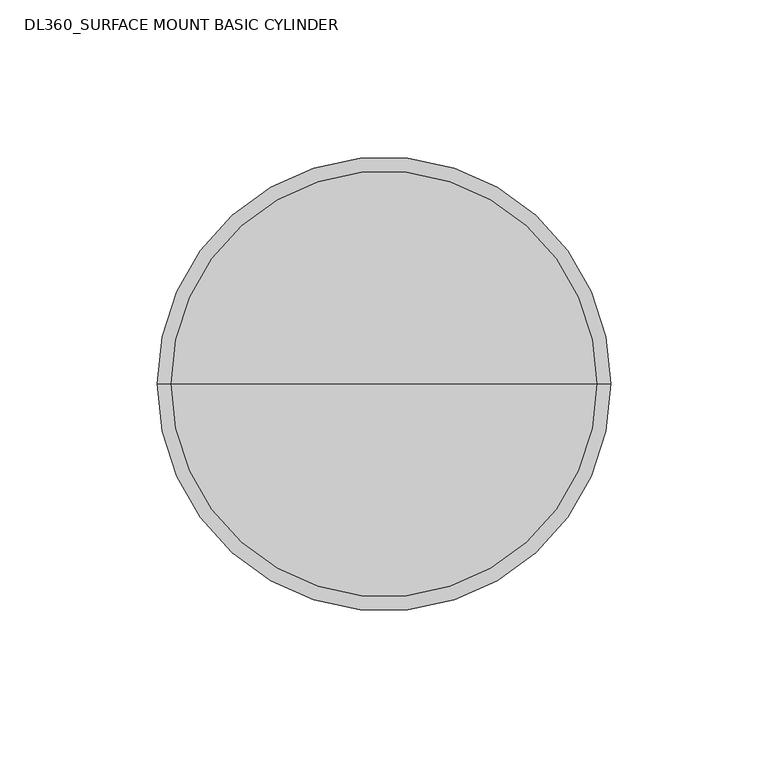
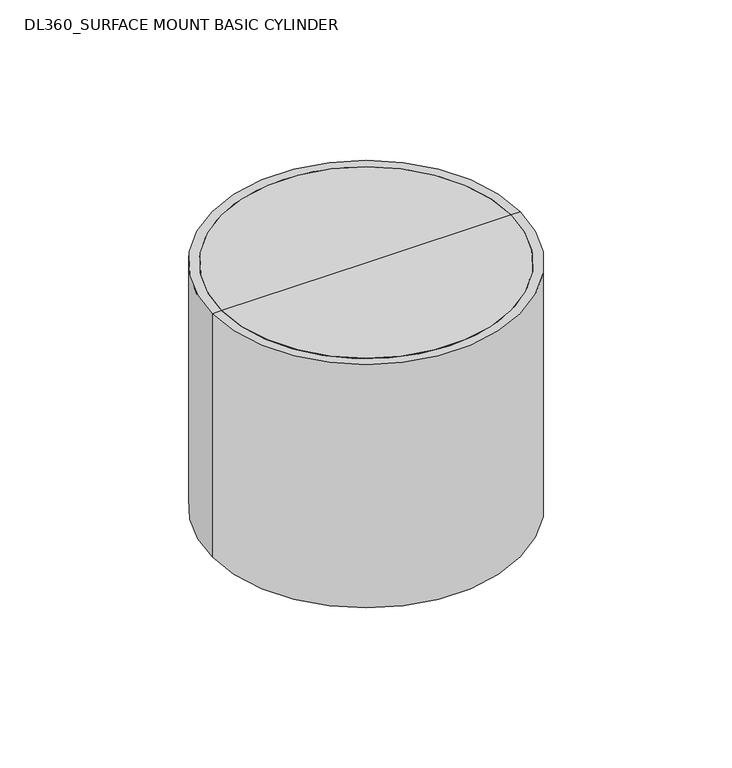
"""IFC4 building model written with IfcOpenShell, lengths in millimetres: light fixture geometry, DL360_SURFACE MOUNT BASIC CYLINDER : DL360WUE-DUN (IP65)."""

import ifcopenshell
import ifcopenshell.guid

model = None  # the IFC model being written
_history = None  # IfcOwnerHistory: only IFC2X3 demands one
_inside = {}  # id of a spatial element -> (the spatial element, [elements in it])
_under = {}  # id of a project, library or spatial element -> (it, [spatial elements below it])
_declared = {}  # id of a project -> (the project, [libraries it declares])
_typed = {}  # id of a type object -> (the type object, [elements of that type])
_made_of = {}  # id of a material, layer set ... -> (it, [elements and type objects made of it])


def new_model(schema):
    """Start an empty IFC model of exactly this schema.

    Asked for "IFC4X3", IfcOpenShell would pick the latest addendum, in which some entities
    have other attributes; the version numbers below select the first issue.
    IFC2X3 requires an IfcOwnerHistory on every rooted entity: one is made here for all.
    """
    global model, _history
    if schema == "IFC4X3":
        model = ifcopenshell.file(schema_version=(4, 3, 0, 0))
    else:
        model = ifcopenshell.file(schema=schema)
    _inside.clear()
    _under.clear()
    _declared.clear()
    _typed.clear()
    _made_of.clear()
    _history = None
    if model.schema == "IFC2X3":
        org = make("IfcOrganization", Name="unknown")
        user = make(
            "IfcPersonAndOrganization",
            ThePerson=make("IfcPerson", FamilyName="unknown"),
            TheOrganization=org,
        )
        app = make(
            "IfcApplication",
            ApplicationDeveloper=org,
            Version="unknown",
            ApplicationFullName="unknown",
            ApplicationIdentifier="unknown",
        )
        _history = make(
            "IfcOwnerHistory",
            OwningUser=user,
            OwningApplication=app,
            ChangeAction="ADDED",
            CreationDate=0,
        )
    return model


def make(cls, **values):
    """One entity of the class cls with the attributes given. An attribute that is None is left unset."""
    return model.create_entity(
        cls, **{name: value for name, value in values.items() if value is not None}
    )


def rooted(cls, **values):
    """An entity with a GlobalId (a new one), such as an element, a storey or a relation."""
    return make(cls, GlobalId=ifcopenshell.guid.new(), OwnerHistory=_history, **values)


def si_unit(unit_type, name, prefix=None):
    """IfcSIUnit, for example si_unit("LENGTHUNIT", "METRE", prefix="MILLI")."""
    return make("IfcSIUnit", UnitType=unit_type, Prefix=prefix, Name=name)


def assignment(units):
    """IfcUnitAssignment: the units of a project."""
    return None if units is None else make("IfcUnitAssignment", Units=units)


def point(xyz):
    """IfcCartesianPoint."""
    return None if xyz is None else make("IfcCartesianPoint", Coordinates=xyz)


def direction(xyz):
    """IfcDirection."""
    return None if xyz is None else make("IfcDirection", DirectionRatios=xyz)


def frame(location, z_axis=None, x_axis=None):
    """IfcAxis2Placement3D, a coordinate frame: its origin and axes. An axis left out is left unset."""
    return make(
        "IfcAxis2Placement3D",
        Location=point(location),
        Axis=direction(z_axis),
        RefDirection=direction(x_axis),
    )


def origin():
    """The frame at (0, 0, 0) with its axes left unset."""
    return frame((0.0, 0.0, 0.0))


def place(relative_to, where):
    """IfcLocalPlacement: puts the frame where relative to a parent placement (None: the world)."""
    return make(
        "IfcLocalPlacement", PlacementRelTo=relative_to, RelativePlacement=where
    )


def context(
    kind, dimensions, precision=None, world=None, true_north=None, identifier=None
):
    """IfcGeometricRepresentationContext, for example the 3D "Model" context."""
    return make(
        "IfcGeometricRepresentationContext",
        ContextIdentifier=identifier,
        ContextType=kind,
        CoordinateSpaceDimension=dimensions,
        Precision=precision,
        WorldCoordinateSystem=world,
        TrueNorth=true_north,
    )


def project(units=None, contexts=None):
    """IfcProject with its units and contexts."""
    return rooted(
        "IfcProject",
        Name="project",
        RepresentationContexts=contexts,
        UnitsInContext=assignment(units),
    )


def spatial(cls, under=None, at=None, **own):
    """A site, building, storey or space (cls), placed at a placement, below another one or the project."""
    s = rooted(cls, ObjectPlacement=at, **own)
    if under is not None:
        _under.setdefault(under.id(), (under, []))[1].append(s)
    return s


def polyline(points):
    """IfcPolyline through the points."""
    return make("IfcPolyline", Points=[point(p) for p in points])


def circle_curve(where, radius):
    """IfcCircle in the frame where."""
    return make("IfcCircle", Position=where, Radius=radius)


def shape(context_of_items, identifier, shape_type, items):
    """IfcShapeRepresentation: the items that make up one representation, for example the "Body"."""
    return make(
        "IfcShapeRepresentation",
        ContextOfItems=context_of_items,
        RepresentationIdentifier=identifier,
        RepresentationType=shape_type,
        Items=items,
    )


def source(mapping_origin, context_of_items, identifier, shape_type, items):
    """IfcRepresentationMap: a shape defined once, which mapped items show again and again."""
    return make(
        "IfcRepresentationMap",
        MappingOrigin=mapping_origin,
        MappedRepresentation=shape(context_of_items, identifier, shape_type, items),
    )


def transform(
    local_origin,
    x_axis=None,
    y_axis=None,
    z_axis=None,
    scale=None,
    scale2=None,
    scale3=None,
    uniform=True,
):
    """IfcCartesianTransformationOperator3D, or its non-uniform kind. x_axis, y_axis, z_axis: its Axis1, 2, 3."""
    if uniform:
        return make(
            "IfcCartesianTransformationOperator3D",
            Axis1=direction(x_axis),
            Axis2=direction(y_axis),
            LocalOrigin=point(local_origin),
            Scale=scale,
            Axis3=direction(z_axis),
        )
    return make(
        "IfcCartesianTransformationOperator3DnonUniform",
        Axis1=direction(x_axis),
        Axis2=direction(y_axis),
        LocalOrigin=point(local_origin),
        Scale=scale,
        Axis3=direction(z_axis),
        Scale2=scale2,
        Scale3=scale3,
    )


def mapped(mapping_source, mapping_target):
    """IfcMappedItem: shows the shape of a source again, moved by a transform."""
    return make(
        "IfcMappedItem", MappingSource=mapping_source, MappingTarget=mapping_target
    )


def made_of(thing, what):
    """Note that an element or type object is made of a material, layer set ...; save() writes the relation."""
    if what is not None:
        _made_of.setdefault(what.id(), (what, []))[1].append(thing)
    return thing


def element(
    cls,
    number,
    at=None,
    inside=None,
    cuts=None,
    type_object=None,
    material=None,
    context=None,
    identifier="Body",
    shape_type=None,
    held_by="IfcProductDefinitionShape",
    body=None,
    shapes=None,
    **own,
):
    """One element of the class cls, such as IfcWall. Its Tag is "e" and its number.

    at: its placement. inside: the storey or other place that contains it. cuts: it is an
    opening in that element (IfcRelVoidsElement). A single representation is given by context,
    identifier, shape_type and body (its items); several are given by shapes. held_by: the class
    of the entity that holds the representations. save() writes the other relations.
    """
    e = rooted(cls, Tag="e%d" % number, ObjectPlacement=at, **own)
    if body is not None:
        shapes = [shape(context, identifier, shape_type, body)]
    if shapes is not None:
        e.Representation = make(held_by, Representations=shapes)
    if inside is not None:
        _inside.setdefault(inside.id(), (inside, []))[1].append(e)
    if cuts is not None:
        rooted(
            "IfcRelVoidsElement", RelatingBuildingElement=cuts, RelatedOpeningElement=e
        )
    if type_object is not None:
        _typed.setdefault(type_object.id(), (type_object, []))[1].append(e)
    return made_of(e, material)


def aggregate(whole, parts):
    """IfcRelAggregates: a whole, such as a stair, and the parts it consists of."""
    return rooted("IfcRelAggregates", RelatingObject=whole, RelatedObjects=parts)


def save(model, path):
    """Write the relations noted so far, then the file.

    IfcRelAggregates (storeys below a building ...), IfcRelContainedInSpatialStructure (elements
    in a storey), IfcRelDefinesByType, IfcRelAssociatesMaterial and IfcRelDeclares: one each for
    every whole, place, type object, material and project.
    """
    for whole, parts in _under.values():
        aggregate(whole, parts)
    for where, things in _inside.values():
        rooted(
            "IfcRelContainedInSpatialStructure",
            RelatedElements=things,
            RelatingStructure=where,
        )
    for kind, things in _typed.values():
        rooted("IfcRelDefinesByType", RelatedObjects=things, RelatingType=kind)
    for what, things in _made_of.values():
        rooted("IfcRelAssociatesMaterial", RelatedObjects=things, RelatingMaterial=what)
    for by, libraries in _declared.values():
        rooted("IfcRelDeclares", RelatingContext=by, RelatedDefinitions=libraries)
    model.write(path)


def plane_surface(at):
    """IfcPlane: the flat surface through the origin of the frame at, square to its z axis."""
    return make("IfcPlane", Position=at)


def cylinder_surface(at, radius):
    """IfcCylindricalSurface: all points at the distance radius from the z axis of the frame at."""
    return make("IfcCylindricalSurface", Position=at, Radius=radius)


def revolved_surface(curve, axis_point, axis_direction):
    """IfcSurfaceOfRevolution: the curve turned about the line through axis_point along axis_direction."""
    return make(
        "IfcSurfaceOfRevolution",
        SweptCurve=make("IfcArbitraryOpenProfileDef", ProfileType="CURVE", Curve=curve),
        AxisPosition=make("IfcAxis1Placement", Location=point(axis_point), Axis=direction(axis_direction)),
    )


def advanced_brep(points, edges, surfaces, faces):
    """IfcAdvancedBrep: a solid bounded by faces that lie on surfaces and meet in shared edges.

    An edge is (start, end): straight between two places in points (the first is 0);
    or (start, end, curve); or (start, end, curve, False) where it runs against its curve.
    A face is (place in surfaces, loops), or (place, loops, False) where it looks against
    its surface's normal. A loop lists edges by number (the first is 1), with a minus sign
    where the edge is run from its end to its start. The first loop is the outer one.
    """
    corners = [point(p) for p in points]
    vertices = [make("IfcVertexPoint", VertexGeometry=c) for c in corners]
    made = []
    for start, end, *more in edges:
        made.append(
            make(
                "IfcEdgeCurve",
                EdgeStart=vertices[start],
                EdgeEnd=vertices[end],
                EdgeGeometry=more[0] if more else make("IfcPolyline", Points=[corners[start], corners[end]]),
                SameSense=more[1] if len(more) > 1 else True,
            )
        )
    hull = []
    for where, loops, *sense in faces:
        bounds = []
        for j, loop in enumerate(loops):
            ring = [make("IfcOrientedEdge", EdgeElement=made[abs(k) - 1], Orientation=k > 0) for k in loop]
            bounds.append(
                make(
                    "IfcFaceOuterBound" if j == 0 else "IfcFaceBound",
                    Bound=make("IfcEdgeLoop", EdgeList=ring),
                    Orientation=True,
                )
            )
        hull.append(make("IfcAdvancedFace", Bounds=bounds, FaceSurface=surfaces[where], SameSense=sense[0] if sense else True))
    return make("IfcAdvancedBrep", Outer=make("IfcClosedShell", CfsFaces=hull))


def dl360_surface_mount_basic_cylinder_dcbcaecf(model_context):
    return source(origin(), model_context, "Body", "AdvancedBrep", [
        advanced_brep(
        [(0.0, -33.7992882, -74.1687017), (-14.1209304, -33.7992882, -74.1687017), (14.1209304, -33.7992882, -74.1687017), (14.2824206, -33.7992882, -73.3749517), (-14.2824206, -33.7992882, -73.3749517), (0.0, -33.7992882, -73.3749517), (22.0439404, -33.7992882, -76.6695213), (-22.0439404, -33.7992882, -76.6695213), (30.7276006, -33.7992882, -81.2867054), (-30.7276006, -33.7992882, -81.2867054), (41.016168, -33.7992882, -87.7157158), (-41.016168, -33.7992882, -87.7157158), (49.629238, -33.7992882, -94.4449836), (-49.629238, -33.7992882, -94.4449836), (56.3797016, -33.7992882, -101.1954472), (-56.3797016, -33.7992882, -101.1954472), (60.1702288, -33.7992882, -108.9671796), (-60.1702288, -33.7992882, -108.9671796), (60.6291676, -33.7992882, -114.5900686), (-60.6291676, -33.7992882, -114.5900686), (59.8327781, -33.7992882, -114.5900686), (-59.8327781, -33.7992882, -114.5900686), (59.3912718, -33.7992882, -109.1807614), (-59.3912718, -33.7992882, -109.1807614), (55.7245119, -33.7992882, -101.6627895), (-55.7245119, -33.7992882, -101.6627895), (49.1023005, -33.7992882, -95.0405781), (-49.1023005, -33.7992882, -95.0405781), (40.5602669, -33.7992882, -88.36681), (-40.5602669, -33.7992882, -88.36681), (30.3304837, -33.7992882, -81.974532), (-30.3304837, -33.7992882, -81.974532), (21.7018967, -33.7992882, -77.3866309), (-21.7018967, -33.7992882, -77.3866309)],
        [
            (0, 1),
            (1, 2, circle_curve(frame((0.0, -33.7992882, -74.1687017), z_axis=(0.0, 0.0, -1.0), x_axis=(-1.0, 0.0, 0.0)), 14.1209304)),
            (2, 0),
            (2, 1, circle_curve(frame((0.0, -33.7992882, -74.1687017), z_axis=(0.0, 0.0, -1.0), x_axis=(-1.0, 0.0, 0.0)), 14.1209304)),
            (3, 4, circle_curve(frame((0.0, -33.7992882, -73.3749517), z_axis=(0.0, 0.0, 1.0), x_axis=(-1.0, 0.0, 0.0)), 14.2824206)),
            (4, 5),
            (5, 3),
            (4, 3, circle_curve(frame((0.0, -33.7992882, -73.3749517), z_axis=(0.0, 0.0, 1.0), x_axis=(-1.0, 0.0, 0.0)), 14.2824206)),
            (6, 7, circle_curve(frame((0.0, -33.7992882, -76.6695213), z_axis=(0.0, 0.0, 1.0), x_axis=(-1.0, 0.0, 0.0)), 22.0439404)),
            (7, 4),
            (3, 6),
            (7, 6, circle_curve(frame((0.0, -33.7992882, -76.6695213), z_axis=(0.0, 0.0, 1.0), x_axis=(-1.0, 0.0, 0.0)), 22.0439404)),
            (8, 9, circle_curve(frame((0.0, -33.7992882, -81.2867054), z_axis=(0.0, 0.0, 1.0), x_axis=(-1.0, 0.0, 0.0)), 30.7276006)),
            (9, 7),
            (6, 8),
            (9, 8, circle_curve(frame((0.0, -33.7992882, -81.2867054), z_axis=(0.0, 0.0, 1.0), x_axis=(-1.0, 0.0, 0.0)), 30.7276006)),
            (10, 11, circle_curve(frame((0.0, -33.7992882, -87.7157158), z_axis=(0.0, 0.0, 1.0), x_axis=(-1.0, 0.0, 0.0)), 41.016168)),
            (11, 9),
            (8, 10),
            (11, 10, circle_curve(frame((0.0, -33.7992882, -87.7157158), z_axis=(0.0, 0.0, 1.0), x_axis=(-1.0, 0.0, 0.0)), 41.016168)),
            (12, 13, circle_curve(frame((0.0, -33.7992882, -94.4449836), z_axis=(0.0, 0.0, 1.0), x_axis=(-1.0, 0.0, 0.0)), 49.629238)),
            (13, 11),
            (10, 12),
            (13, 12, circle_curve(frame((0.0, -33.7992882, -94.4449836), z_axis=(0.0, 0.0, 1.0), x_axis=(-1.0, 0.0, 0.0)), 49.629238)),
            (14, 15, circle_curve(frame((0.0, -33.7992882, -101.1954472), z_axis=(0.0, 0.0, 1.0), x_axis=(-1.0, 0.0, 0.0)), 56.3797016)),
            (15, 13),
            (12, 14),
            (15, 14, circle_curve(frame((0.0, -33.7992882, -101.1954472), z_axis=(0.0, 0.0, 1.0), x_axis=(-1.0, 0.0, 0.0)), 56.3797016)),
            (16, 17, circle_curve(frame((0.0, -33.7992882, -108.9671796), z_axis=(0.0, 0.0, 1.0), x_axis=(-1.0, 0.0, 0.0)), 60.1702288)),
            (17, 15),
            (14, 16),
            (17, 16, circle_curve(frame((0.0, -33.7992882, -108.9671796), z_axis=(0.0, 0.0, 1.0), x_axis=(-1.0, 0.0, 0.0)), 60.1702288)),
            (18, 19, circle_curve(frame((0.0, -33.7992882, -114.5900686), z_axis=(0.0, 0.0, 1.0), x_axis=(-1.0, 0.0, 0.0)), 60.6291676)),
            (19, 17),
            (16, 18),
            (19, 18, circle_curve(frame((0.0, -33.7992882, -114.5900686), z_axis=(0.0, 0.0, 1.0), x_axis=(-1.0, 0.0, 0.0)), 60.6291676)),
            (20, 21, circle_curve(frame((0.0, -33.7992882, -114.5900686), z_axis=(0.0, 0.0, 1.0), x_axis=(-1.0, 0.0, 0.0)), 59.8327781)),
            (21, 19),
            (18, 20),
            (21, 20, circle_curve(frame((0.0, -33.7992882, -114.5900686), z_axis=(0.0, 0.0, 1.0), x_axis=(-1.0, 0.0, 0.0)), 59.8327781)),
            (22, 23, circle_curve(frame((0.0, -33.7992882, -109.1807614), z_axis=(0.0, 0.0, 1.0), x_axis=(-1.0, 0.0, 0.0)), 59.3912718)),
            (23, 21),
            (20, 22),
            (23, 22, circle_curve(frame((0.0, -33.7992882, -109.1807614), z_axis=(0.0, 0.0, 1.0), x_axis=(-1.0, 0.0, 0.0)), 59.3912718)),
            (24, 25, circle_curve(frame((0.0, -33.7992882, -101.6627895), z_axis=(0.0, 0.0, 1.0), x_axis=(-1.0, 0.0, 0.0)), 55.7245119)),
            (25, 23),
            (22, 24),
            (25, 24, circle_curve(frame((0.0, -33.7992882, -101.6627895), z_axis=(0.0, 0.0, 1.0), x_axis=(-1.0, 0.0, 0.0)), 55.7245119)),
            (26, 27, circle_curve(frame((0.0, -33.7992882, -95.0405781), z_axis=(0.0, 0.0, 1.0), x_axis=(-1.0, 0.0, 0.0)), 49.1023005)),
            (27, 25),
            (24, 26),
            (27, 26, circle_curve(frame((0.0, -33.7992882, -95.0405781), z_axis=(0.0, 0.0, 1.0), x_axis=(-1.0, 0.0, 0.0)), 49.1023005)),
            (28, 29, circle_curve(frame((0.0, -33.7992882, -88.36681), z_axis=(0.0, 0.0, 1.0), x_axis=(-1.0, 0.0, 0.0)), 40.5602669)),
            (29, 27),
            (26, 28),
            (29, 28, circle_curve(frame((0.0, -33.7992882, -88.36681), z_axis=(0.0, 0.0, 1.0), x_axis=(-1.0, 0.0, 0.0)), 40.5602669)),
            (30, 31, circle_curve(frame((0.0, -33.7992882, -81.974532), z_axis=(0.0, 0.0, 1.0), x_axis=(-1.0, 0.0, 0.0)), 30.3304837)),
            (31, 29),
            (28, 30),
            (31, 30, circle_curve(frame((0.0, -33.7992882, -81.974532), z_axis=(0.0, 0.0, 1.0), x_axis=(-1.0, 0.0, 0.0)), 30.3304837)),
            (32, 33, circle_curve(frame((0.0, -33.7992882, -77.3866309), z_axis=(0.0, 0.0, 1.0), x_axis=(-1.0, 0.0, 0.0)), 21.7018967)),
            (33, 31),
            (30, 32),
            (33, 32, circle_curve(frame((0.0, -33.7992882, -77.3866309), z_axis=(0.0, 0.0, 1.0), x_axis=(-1.0, 0.0, 0.0)), 21.7018967)),
            (1, 33),
            (32, 2),
        ],
        [
            plane_surface(frame((0.0, -33.7992882, -74.1687017), z_axis=(0.0, 0.0, -1.0), x_axis=(-1.0, 0.0, 0.0))),
            plane_surface(frame((0.0, -33.7992882, -73.3749517), z_axis=(0.0, 0.0, 1.0), x_axis=(-1.0, 0.0, 0.0))),
            revolved_surface(polyline([(-14.2824206, -33.7992882, -73.3749517), (-22.0439404, -33.7992882, -76.6695213)]), (0.0, -33.7992882, -38.1), (0.0, 0.0, -1.0)),
            revolved_surface(polyline([(-22.0439404, -33.7992882, -76.6695213), (-30.7276006, -33.7992882, -81.2867054)]), (0.0, -33.7992882, -38.1), (0.0, 0.0, -1.0)),
            revolved_surface(polyline([(-30.7276006, -33.7992882, -81.2867054), (-41.016168, -33.7992882, -87.7157158)]), (0.0, -33.7992882, -38.1), (0.0, 0.0, -1.0)),
            revolved_surface(polyline([(-41.016168, -33.7992882, -87.7157158), (-49.629238, -33.7992882, -94.4449836)]), (0.0, -33.7992882, -38.1), (0.0, 0.0, -1.0)),
            revolved_surface(polyline([(-49.629238, -33.7992882, -94.4449836), (-56.3797016, -33.7992882, -101.1954472)]), (0.0, -33.7992882, -38.1), (0.0, 0.0, -1.0)),
            revolved_surface(polyline([(-56.3797016, -33.7992882, -101.1954472), (-60.1702288, -33.7992882, -108.9671796)]), (0.0, -33.7992882, -38.1), (0.0, 0.0, -1.0)),
            revolved_surface(polyline([(-60.1702288, -33.7992882, -108.9671796), (-60.6291676, -33.7992882, -114.5900686)]), (0.0, -33.7992882, -38.1), (0.0, 0.0, -1.0)),
            plane_surface(frame((0.0, -33.7992882, -114.5900686), z_axis=(0.0, 0.0, -1.0), x_axis=(-1.0, 0.0, 0.0))),
            revolved_surface(polyline([(-59.8327781, -33.7992882, -114.5900686), (-59.3912718, -33.7992882, -109.1807614)]), (0.0, -33.7992882, -38.1), (0.0, 0.0, -1.0)),
            revolved_surface(polyline([(-59.3912718, -33.7992882, -109.1807614), (-55.7245119, -33.7992882, -101.6627895)]), (0.0, -33.7992882, -38.1), (0.0, 0.0, -1.0)),
            revolved_surface(polyline([(-55.7245119, -33.7992882, -101.6627895), (-49.1023005, -33.7992882, -95.0405781)]), (0.0, -33.7992882, -38.1), (0.0, 0.0, -1.0)),
            revolved_surface(polyline([(-49.1023005, -33.7992882, -95.0405781), (-40.5602669, -33.7992882, -88.36681)]), (0.0, -33.7992882, -38.1), (0.0, 0.0, -1.0)),
            revolved_surface(polyline([(-40.5602669, -33.7992882, -88.36681), (-30.3304837, -33.7992882, -81.974532)]), (0.0, -33.7992882, -38.1), (0.0, 0.0, -1.0)),
            revolved_surface(polyline([(-30.3304837, -33.7992882, -81.974532), (-21.7018967, -33.7992882, -77.3866309)]), (0.0, -33.7992882, -38.1), (0.0, 0.0, -1.0)),
            revolved_surface(polyline([(-21.7018967, -33.7992882, -77.3866309), (-14.1209304, -33.7992882, -74.1687017)]), (0.0, -33.7992882, -38.1), (0.0, 0.0, -1.0)),
        ],
        [
            (0, [[1, 2, 3]]),
            (0, [[-3, 4, -1]]),
            (1, [[5, 6, 7]]),
            (1, [[8, -7, -6]]),
            (2, [[9, 10, -5, 11]]),
            (2, [[12, -11, -8, -10]]),
            (3, [[13, 14, -9, 15]]),
            (3, [[16, -15, -12, -14]]),
            (4, [[17, 18, -13, 19]]),
            (4, [[20, -19, -16, -18]]),
            (5, [[21, 22, -17, 23]]),
            (5, [[24, -23, -20, -22]]),
            (6, [[25, 26, -21, 27]]),
            (6, [[28, -27, -24, -26]]),
            (7, [[29, 30, -25, 31]]),
            (7, [[32, -31, -28, -30]]),
            (8, [[33, 34, -29, 35]]),
            (8, [[36, -35, -32, -34]]),
            (9, [[37, 38, -33, 39]]),
            (9, [[40, -39, -36, -38]]),
            (10, [[41, 42, -37, 43]]),
            (10, [[44, -43, -40, -42]]),
            (11, [[45, 46, -41, 47]]),
            (11, [[48, -47, -44, -46]]),
            (12, [[49, 50, -45, 51]]),
            (12, [[52, -51, -48, -50]]),
            (13, [[53, 54, -49, 55]]),
            (13, [[56, -55, -52, -54]]),
            (14, [[57, 58, -53, 59]]),
            (14, [[60, -59, -56, -58]]),
            (15, [[61, 62, -57, 63]]),
            (15, [[64, -63, -60, -62]]),
            (16, [[-2, 65, -61, 66]]),
            (16, [[-4, -66, -64, -65]]),
        ],
    ),
        advanced_brep(
        [(67.7245573, -33.7992882, 0.0), (-67.7245573, -33.7992882, 0.0), (0.0, -33.7992882, 0.0), (67.7245573, -33.7992882, -26.1716136), (-67.7245573, -33.7992882, -26.1716136), (0.0, -33.7992882, -26.1716136)],
        [
            (0, 1, circle_curve(frame((0.0, -33.7992882, 0.0), z_axis=(0.0, 0.0, 1.0), x_axis=(-1.0, 0.0, 0.0)), 67.7245573)),
            (1, 2),
            (2, 0),
            (1, 0, circle_curve(frame((0.0, -33.7992882, 0.0), z_axis=(0.0, 0.0, 1.0), x_axis=(-1.0, 0.0, 0.0)), 67.7245573)),
            (3, 4, circle_curve(frame((0.0, -33.7992882, -26.1716136), z_axis=(0.0, 0.0, 1.0), x_axis=(-1.0, 0.0, 0.0)), 67.7245573)),
            (4, 1),
            (0, 3),
            (4, 3, circle_curve(frame((0.0, -33.7992882, -26.1716136), z_axis=(0.0, 0.0, 1.0), x_axis=(-1.0, 0.0, 0.0)), 67.7245573)),
            (5, 4),
            (3, 5),
        ],
        [
            plane_surface(frame((0.0, -33.7992882, 0.0), z_axis=(0.0, 0.0, 1.0), x_axis=(-1.0, 0.0, 0.0))),
            cylinder_surface(frame((0.0, -33.7992882, 2350.6431236), z_axis=(0.0, 0.0, -1.0), x_axis=(-1.0, 0.0, 0.0)), 67.7245573),
            plane_surface(frame((0.0, -33.7992882, -26.1716136), z_axis=(0.0, 0.0, -1.0), x_axis=(-1.0, 0.0, 0.0))),
        ],
        [
            (0, [[1, 2, 3]]),
            (0, [[4, -3, -2]]),
            (1, [[5, 6, -1, 7]]),
            (1, [[8, -7, -4, -6]]),
            (2, [[9, -5, 10]]),
            (2, [[-10, -8, -9]]),
        ],
    ),
        advanced_brep(
        [(72.23125, -33.7992882, -120.65), (-72.23125, -33.7992882, -120.65), (-72.23125, -33.7992882, 0.0), (72.23125, -33.7992882, 0.0), (66.4325967, -33.7992882, -120.65), (-66.4325967, -33.7992882, -120.65), (59.8327781, -33.7992882, -66.676311), (-59.8327781, -33.7992882, -66.676311), (-68.087449, -33.7992882, -66.676311), (68.087449, -33.7992882, -66.676311), (59.8327781, -33.7992882, -58.5806399), (-59.8327781, -33.7992882, -58.5806399), (67.7245573, -33.7992882, -58.5806399), (-67.7245573, -33.7992882, -58.5806399), (67.7245573, -33.7992882, 0.0), (-67.7245573, -33.7992882, 0.0), (66.4325967, -33.7992882, -117.0055029), (-66.4325967, -33.7992882, -117.0055029), (59.8327781, -33.7992882, -117.0055029), (-59.8327781, -33.7992882, -117.0055029), (59.8327781, -33.7992882, -114.5900686), (-59.8327781, -33.7992882, -114.5900686), (68.087449, -33.7992882, -114.5900686), (-68.087449, -33.7992882, -114.5900686)],
        [
            (0, 1, circle_curve(frame((0.0, -33.7992882, -120.65), z_axis=(0.0, 0.0, 1.0), x_axis=(-1.0, 0.0, 0.0)), 72.23125)),
            (1, 2),
            (2, 3, circle_curve(frame((0.0, -33.7992882, 0.0), z_axis=(0.0, 0.0, -1.0), x_axis=(-1.0, 0.0, 0.0)), 72.23125)),
            (3, 0),
            (1, 0, circle_curve(frame((0.0, -33.7992882, -120.65), z_axis=(0.0, 0.0, 1.0), x_axis=(-1.0, 0.0, 0.0)), 72.23125)),
            (3, 2, circle_curve(frame((0.0, -33.7992882, 0.0), z_axis=(0.0, 0.0, -1.0), x_axis=(-1.0, 0.0, 0.0)), 72.23125)),
            (4, 5, circle_curve(frame((0.0, -33.7992882, -120.65), z_axis=(0.0, 0.0, 1.0), x_axis=(-1.0, 0.0, 0.0)), 66.4325967)),
            (5, 1),
            (0, 4),
            (5, 4, circle_curve(frame((0.0, -33.7992882, -120.65), z_axis=(0.0, 0.0, 1.0), x_axis=(-1.0, 0.0, 0.0)), 66.4325967)),
            (6, 7, circle_curve(frame((0.0, -33.7992882, -66.676311), z_axis=(0.0, 0.0, 1.0), x_axis=(-1.0, 0.0, 0.0)), 59.8327781)),
            (7, 8),
            (8, 9, circle_curve(frame((0.0, -33.7992882, -66.676311), z_axis=(0.0, 0.0, -1.0), x_axis=(-1.0, 0.0, 0.0)), 68.087449)),
            (9, 6),
            (7, 6, circle_curve(frame((0.0, -33.7992882, -66.676311), z_axis=(0.0, 0.0, 1.0), x_axis=(-1.0, 0.0, 0.0)), 59.8327781)),
            (9, 8, circle_curve(frame((0.0, -33.7992882, -66.676311), z_axis=(0.0, 0.0, -1.0), x_axis=(-1.0, 0.0, 0.0)), 68.087449)),
            (10, 11, circle_curve(frame((0.0, -33.7992882, -58.5806399), z_axis=(0.0, 0.0, 1.0), x_axis=(-1.0, 0.0, 0.0)), 59.8327781)),
            (11, 7),
            (6, 10),
            (11, 10, circle_curve(frame((0.0, -33.7992882, -58.5806399), z_axis=(0.0, 0.0, 1.0), x_axis=(-1.0, 0.0, 0.0)), 59.8327781)),
            (12, 13, circle_curve(frame((0.0, -33.7992882, -58.5806399), z_axis=(0.0, 0.0, 1.0), x_axis=(-1.0, 0.0, 0.0)), 67.7245573)),
            (13, 11),
            (10, 12),
            (13, 12, circle_curve(frame((0.0, -33.7992882, -58.5806399), z_axis=(0.0, 0.0, 1.0), x_axis=(-1.0, 0.0, 0.0)), 67.7245573)),
            (14, 15, circle_curve(frame((0.0, -33.7992882, 0.0), z_axis=(0.0, 0.0, 1.0), x_axis=(-1.0, 0.0, 0.0)), 67.7245573)),
            (15, 13),
            (12, 14),
            (15, 14, circle_curve(frame((0.0, -33.7992882, 0.0), z_axis=(0.0, 0.0, 1.0), x_axis=(-1.0, 0.0, 0.0)), 67.7245573)),
            (2, 15),
            (14, 3),
            (16, 17, circle_curve(frame((0.0, -33.7992882, -117.0055029), z_axis=(0.0, 0.0, 1.0), x_axis=(-1.0, 0.0, 0.0)), 66.4325967)),
            (17, 5),
            (4, 16),
            (17, 16, circle_curve(frame((0.0, -33.7992882, -117.0055029), z_axis=(0.0, 0.0, 1.0), x_axis=(-1.0, 0.0, 0.0)), 66.4325967)),
            (18, 19, circle_curve(frame((0.0, -33.7992882, -117.0055029), z_axis=(0.0, 0.0, 1.0), x_axis=(-1.0, 0.0, 0.0)), 59.8327781)),
            (19, 17),
            (16, 18),
            (19, 18, circle_curve(frame((0.0, -33.7992882, -117.0055029), z_axis=(0.0, 0.0, 1.0), x_axis=(-1.0, 0.0, 0.0)), 59.8327781)),
            (20, 21, circle_curve(frame((0.0, -33.7992882, -114.5900686), z_axis=(0.0, 0.0, 1.0), x_axis=(-1.0, 0.0, 0.0)), 59.8327781)),
            (21, 19),
            (18, 20),
            (21, 20, circle_curve(frame((0.0, -33.7992882, -114.5900686), z_axis=(0.0, 0.0, 1.0), x_axis=(-1.0, 0.0, 0.0)), 59.8327781)),
            (22, 23, circle_curve(frame((0.0, -33.7992882, -114.5900686), z_axis=(0.0, 0.0, 1.0), x_axis=(-1.0, 0.0, 0.0)), 68.087449)),
            (23, 21),
            (20, 22),
            (23, 22, circle_curve(frame((0.0, -33.7992882, -114.5900686), z_axis=(0.0, 0.0, 1.0), x_axis=(-1.0, 0.0, 0.0)), 68.087449)),
            (8, 23),
            (22, 9),
        ],
        [
            cylinder_surface(frame((0.0, -33.7992882, -328.0872756), z_axis=(0.0, 0.0, -1.0), x_axis=(-1.0, 0.0, 0.0)), 72.23125),
            plane_surface(frame((0.0, -33.7992882, -120.65), z_axis=(0.0, 0.0, -1.0), x_axis=(-1.0, 0.0, 0.0))),
            plane_surface(frame((0.0, -33.7992882, -66.676311), z_axis=(0.0, 0.0, -1.0), x_axis=(-1.0, 0.0, 0.0))),
            revolved_surface(polyline([(-59.8327781, -33.7992882, -66.676311), (-59.8327781, -33.7992882, -58.580639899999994)]), (0.0, -33.7992882, -328.0872756), (0.0, 0.0, -1.0)),
            plane_surface(frame((0.0, -33.7992882, -58.5806399), z_axis=(0.0, 0.0, 1.0), x_axis=(-1.0, 0.0, 0.0))),
            revolved_surface(polyline([(-67.7245573, -33.7992882, -58.580639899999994), (-67.7245573, -33.7992882, 0.0)]), (0.0, -33.7992882, -328.0872756), (0.0, 0.0, -1.0)),
            plane_surface(frame((0.0, -33.7992882, 0.0), z_axis=(0.0, 0.0, 1.0), x_axis=(-1.0, 0.0, 0.0))),
            revolved_surface(polyline([(-66.4325967, -33.7992882, -120.65), (-66.4325967, -33.7992882, -117.00550290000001)]), (0.0, -33.7992882, -328.0872756), (0.0, 0.0, -1.0)),
            plane_surface(frame((0.0, -33.7992882, -117.0055029), z_axis=(0.0, 0.0, -1.0), x_axis=(-1.0, 0.0, 0.0))),
            revolved_surface(polyline([(-59.8327781, -33.7992882, -117.00550290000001), (-59.8327781, -33.7992882, -114.5900686)]), (0.0, -33.7992882, -328.0872756), (0.0, 0.0, -1.0)),
            plane_surface(frame((0.0, -33.7992882, -114.5900686), z_axis=(0.0, 0.0, 1.0), x_axis=(-1.0, 0.0, 0.0))),
            revolved_surface(polyline([(-68.087449, -33.7992882, -114.5900686), (-68.087449, -33.7992882, -66.676311)]), (0.0, -33.7992882, -328.0872756), (0.0, 0.0, -1.0)),
        ],
        [
            (0, [[1, 2, 3, 4]]),
            (0, [[5, -4, 6, -2]]),
            (1, [[7, 8, -1, 9]]),
            (1, [[10, -9, -5, -8]]),
            (2, [[11, 12, 13, 14]]),
            (2, [[15, -14, 16, -12]]),
            (3, [[17, 18, -11, 19]]),
            (3, [[20, -19, -15, -18]]),
            (4, [[21, 22, -17, 23]]),
            (4, [[24, -23, -20, -22]]),
            (5, [[25, 26, -21, 27]]),
            (5, [[28, -27, -24, -26]]),
            (6, [[-3, 29, -25, 30]]),
            (6, [[-6, -30, -28, -29]]),
            (7, [[31, 32, -7, 33]]),
            (7, [[34, -33, -10, -32]]),
            (8, [[35, 36, -31, 37]]),
            (8, [[38, -37, -34, -36]]),
            (9, [[39, 40, -35, 41]]),
            (9, [[42, -41, -38, -40]]),
            (10, [[43, 44, -39, 45]]),
            (10, [[46, -45, -42, -44]]),
            (11, [[-13, 47, -43, 48]]),
            (11, [[-16, -48, -46, -47]]),
        ],
    ),
    ])


if __name__ == "__main__":
    model = new_model("IFC4")
    model_context = context("Model", 3, world=origin())
    ifc_project = project(units=[si_unit("LENGTHUNIT", "METRE", prefix="MILLI")], contexts=[model_context])
    site = spatial("IfcSite", under=ifc_project)
    building = spatial("IfcBuilding", under=site)
    placement = place(None, origin())
    dl360_surface_mount_basic_cylinder_shape = dl360_surface_mount_basic_cylinder_dcbcaecf(model_context)
    element("IfcLightFixture", 1, ObjectType="DL360_SURFACE MOUNT BASIC CYLINDER : DL360WUE-DUN (IP65)", at=placement, inside=building, context=model_context, shape_type="MappedRepresentation", body=[
        mapped(dl360_surface_mount_basic_cylinder_shape, transform((0.0, 0.0, 0.0), x_axis=(1.0, 0.0, 0.0), y_axis=(0.0, 1.0, 0.0), z_axis=(0.0, 0.0, 1.0))),
    ])
    save(model, "model.ifc")
